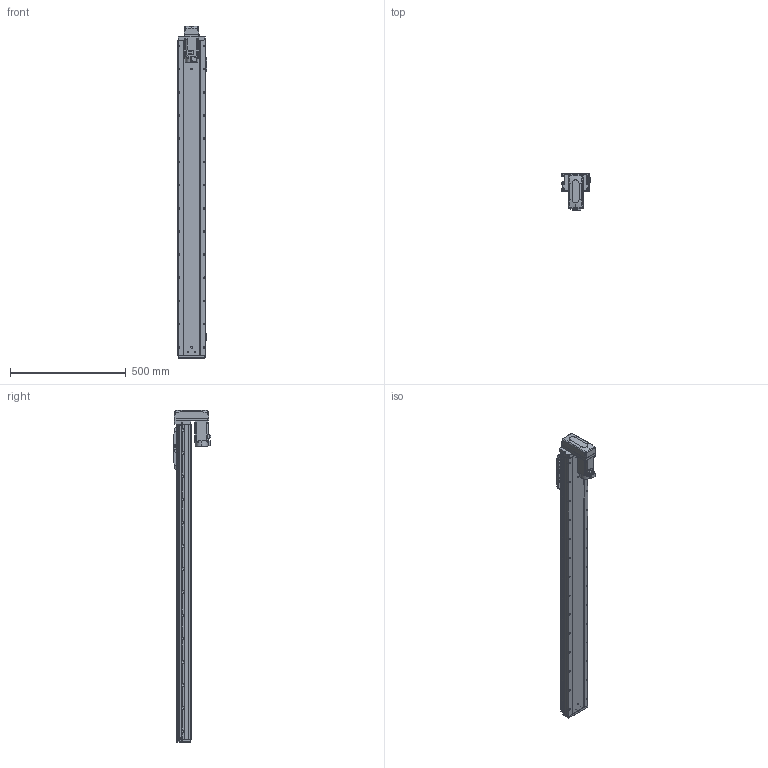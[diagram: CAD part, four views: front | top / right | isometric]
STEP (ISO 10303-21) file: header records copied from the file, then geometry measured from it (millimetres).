
FILE_DESCRIPTION (( 'STEP AP203' ), '1' );
FILE_NAME ('GTH12-1150-BM-M40-C4.STEP', '2023-03-11T02:26:40', ( '微软用户' ), ( '微软中国' ), 'SwSTEP 2.0', 'SolidWorks 2020', '' );
FILE_SCHEMA (( 'CONFIG_CONTROL_DESIGN' ));
Length unit declared in the file: millimetre
Products named in the file (18): GTH120-013; GTH50-024; GBT 70.1-M3℅6; GBT96.1-2002 3×0.8; GBT 70.1-M5×16; BTH-M3X5X6; GTH120-001_1150; GBT 70.3-M3℅8; hg-kn43j_-s100_; GTH120-003; GTH80-022; CTHA86-033_M40B; GTH120-006; GTH80-028; GTH120-027-1_GTH120-027-2; GTH120-004; GTH50-023; GTH12-1150-BM-M40-C4
Assembly tree (59 placements, depth 2):
  GTH12-1150-BM-M40-C4
    GTH120-001_1150
    GTH120-003
    GTH120-006
    GTH120-004
    GTH120-013
    GBT 70.1-M3℅6  x14
    GBT 70.1-M5×16  x10
    GBT 70.3-M3℅8  x4
    GTH80-022
    GTH80-028  x2
    GTH50-023  x3
    GTH50-024  x3
    GBT96.1-2002 3×0.8  x6
    BTH-M3X5X6  x8
    hg-kn43j_-s100_
    CTHA86-033_M40B
    GTH120-027-1_GTH120-027-2
Bounding box: 125.7 x 159.8 x 1432 mm (x, y, z)
Volume: 10121640.8 mm3; surface area: 841857.6 mm2
Topology: 61 solids, 61 shells, 2566 faces, 6021 edges, 3697 vertices
Faces by surface type: plane 1302, cylinder 764, cone 312, torus 174, sphere 8, bspline 6
Entity records: 49443 total; most frequent: CARTESIAN_POINT 8414, DIRECTION 8229, ORIENTED_EDGE 7652, EDGE_CURVE 3826, AXIS2_PLACEMENT_3D 2877, VECTOR 2475, LINE 2475, VERTEX_POINT 2418
